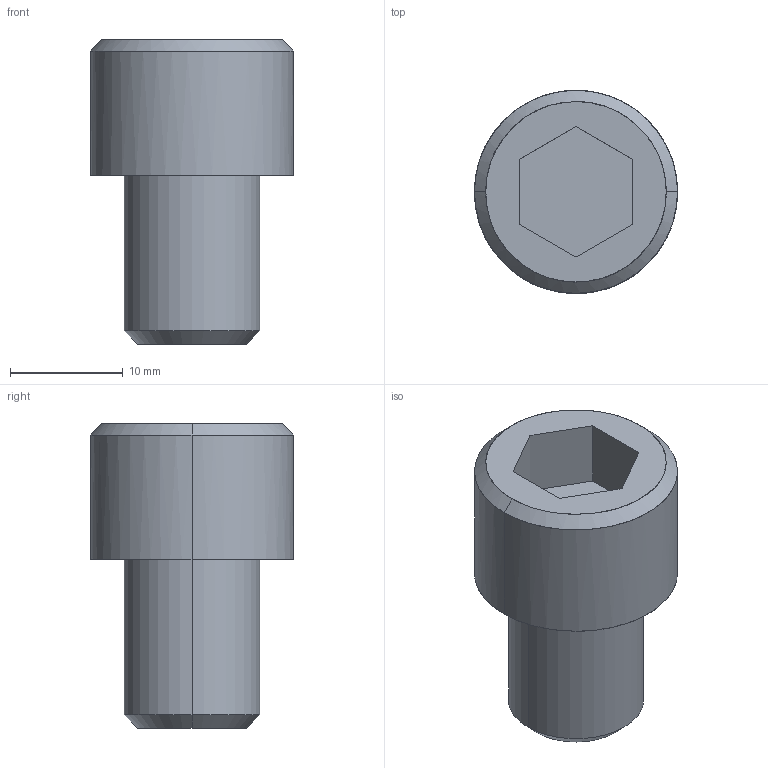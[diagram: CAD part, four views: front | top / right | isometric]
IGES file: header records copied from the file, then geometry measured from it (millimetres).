
Global section: file name: E:\UnigraphicsGraphicData\MISUMI_PRESS-PARTS\IGES\3d_cb12-15_00445_r00.igs; native system: NX V5.0; preprocessor: UGS NX IGES V5.0; author: MISUMI; date: 20110105.160146; units: millimetre
Bounding box: 18 x 18 x 27 mm (x, y, z)
Surface area: 1899.4 mm2 (no closed solid volume)
Topology: 0 solids, 0 shells, 18 faces, 100 edges, 100 vertices
Faces by surface type: bspline 18
